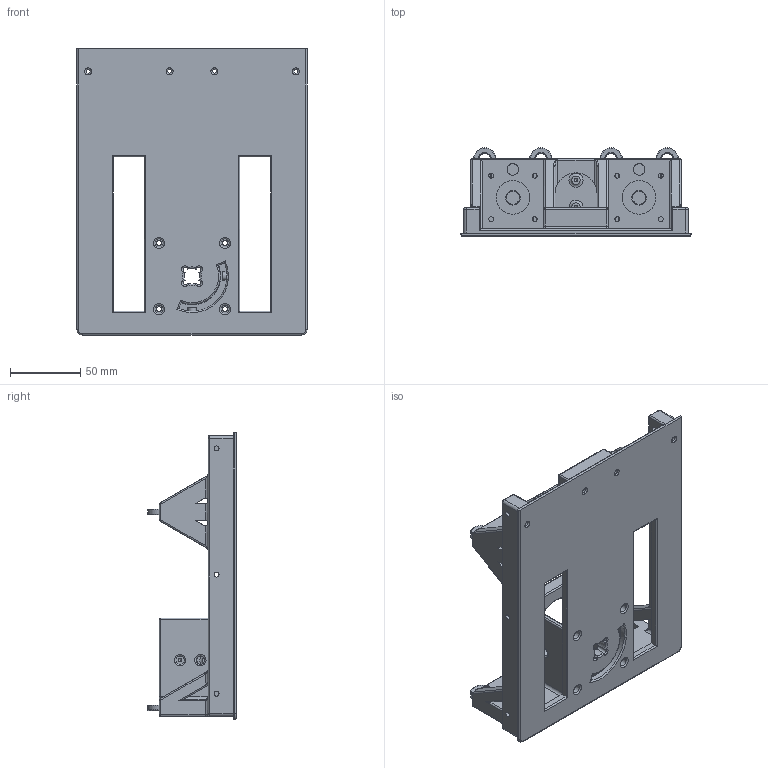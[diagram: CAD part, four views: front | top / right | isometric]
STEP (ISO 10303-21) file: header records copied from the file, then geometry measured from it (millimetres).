
FILE_DESCRIPTION(/* description */ (''),/* implementation_level */ '2;1');
FILE_NAME(/* name */ 'V:\Flow\Inventor\Kontinuierliche Spritzenpumpe\Platte vorne.stp',/* time_stamp */ '2019-12-20T10:17:38+01:00',/* author */ ('JN'),/* organization */ (''),/* preprocessor_version */ 'ST-DEVELOPER v17',/* originating_system */ 'Autodesk Inventor 2018',/* authorisation */ '');
FILE_SCHEMA (('AUTOMOTIVE_DESIGN { 1 0 10303 214 3 1 1 }'));
Length unit declared in the file: millimetre
Products named in the file (1): Platte vorne
Bounding box: 164 x 63 x 204 mm (x, y, z)
Volume: 438383.7 mm3; surface area: 139849.8 mm2
Topology: 1 solids, 1 shells, 667 faces, 1805 edges, 1126 vertices
Faces by surface type: cylinder 297, plane 208, torus 93, bspline 37, sphere 28, cone 4
Full cylindrical faces by diameter (mm): 2 x8, 2.5 x4, 3 x4, 3.5 x24, 6 x10, 6.2 x12, 8.3 x4, 9.4 x2, 24 x2, 28 x1, 40 x1
Entity records: 22563 total; most frequent: CARTESIAN_POINT 5096, DIRECTION 3871, ORIENTED_EDGE 3566, EDGE_CURVE 1783, AXIS2_PLACEMENT_3D 1512, VERTEX_POINT 1126, LINE 847, VECTOR 847
